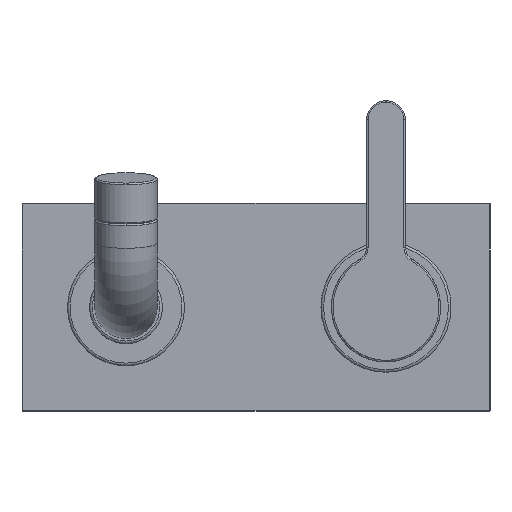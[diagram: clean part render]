
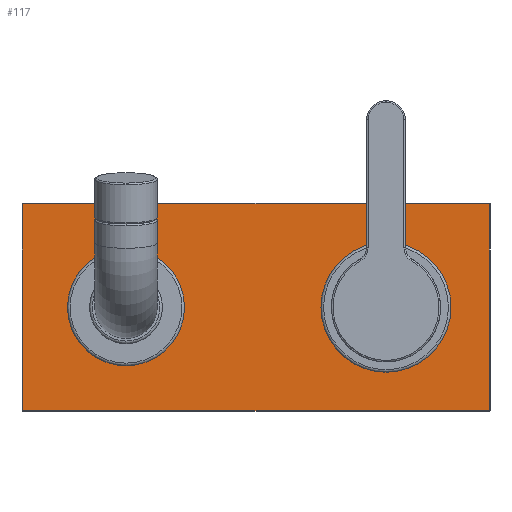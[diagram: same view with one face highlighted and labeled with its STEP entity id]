
A CAD part, left-side view. The second image highlights one B-rep face of the part: STEP entity #117.
In plain terms, the highlighted planar face has unit normal (-1, 0, 0).
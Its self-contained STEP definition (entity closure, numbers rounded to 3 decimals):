
#117=ADVANCED_FACE('',(#835,#837,#839),#841,.F.);
#835=FACE_BOUND('',#836,.T.);
#836=EDGE_LOOP('',(#1742,#1743,#1744,#1745));
#837=FACE_BOUND('',#838,.T.);
#838=EDGE_LOOP('',(#1746));
#839=FACE_BOUND('',#840,.T.);
#840=EDGE_LOOP('',(#1747));
#841=PLANE('',#842);
#842=AXIS2_PLACEMENT_3D('',#843,#844,#845);
#843=CARTESIAN_POINT('',(0.,0.,0.));
#844=DIRECTION('',(1.,0.,0.));
#845=DIRECTION('',(0.,1.,0.));
#1742=ORIENTED_EDGE('',*,*,#2024,.F.);
#1743=ORIENTED_EDGE('',*,*,#2025,.F.);
#1744=ORIENTED_EDGE('',*,*,#2026,.F.);
#1745=ORIENTED_EDGE('',*,*,#2027,.F.);
#1746=ORIENTED_EDGE('',*,*,#2023,.F.);
#1747=ORIENTED_EDGE('',*,*,#2028,.F.);
#2023=EDGE_CURVE('',#2172,#2172,#2173,.T.);
#2024=EDGE_CURVE('',#2174,#2175,#2176,.T.);
#2025=EDGE_CURVE('',#2177,#2174,#2178,.T.);
#2026=EDGE_CURVE('',#2179,#2177,#2180,.T.);
#2027=EDGE_CURVE('',#2175,#2179,#2181,.T.);
#2028=EDGE_CURVE('',#2182,#2182,#2183,.T.);
#2172=VERTEX_POINT('',#2422);
#2173=CIRCLE('',#2423,25.);
#2174=VERTEX_POINT('',#2427);
#2175=VERTEX_POINT('',#2428);
#2176=LINE('',#2429,#2430);
#2177=VERTEX_POINT('',#2432);
#2178=LINE('',#2433,#2434);
#2179=VERTEX_POINT('',#2436);
#2180=LINE('',#2437,#2438);
#2181=LINE('',#2440,#2441);
#2182=VERTEX_POINT('',#2443);
#2183=CIRCLE('',#2444,22.5);
#2422=CARTESIAN_POINT('',(0.,-75.,0.));
#2423=AXIS2_PLACEMENT_3D('',#2424,#2425,#2426);
#2424=CARTESIAN_POINT('',(0.,-100.,0.));
#2425=DIRECTION('',(-1.,-0.,0.));
#2426=DIRECTION('',(0.,1.,0.));
#2427=CARTESIAN_POINT('',(0.,-139.8,-39.8));
#2428=CARTESIAN_POINT('',(0.,39.8,-39.8));
#2429=CARTESIAN_POINT('',(0.,-139.8,-39.8));
#2430=VECTOR('',#2431,1.);
#2431=DIRECTION('',(0.,1.,0.));
#2432=CARTESIAN_POINT('',(0.,-139.8,39.8));
#2433=CARTESIAN_POINT('',(0.,-139.8,39.8));
#2434=VECTOR('',#2435,1.);
#2435=DIRECTION('',(0.,0.,-1.));
#2436=CARTESIAN_POINT('',(0.,39.8,39.8));
#2437=CARTESIAN_POINT('',(0.,39.8,39.8));
#2438=VECTOR('',#2439,1.);
#2439=DIRECTION('',(0.,-1.,0.));
#2440=CARTESIAN_POINT('',(0.,39.8,-39.8));
#2441=VECTOR('',#2442,1.);
#2442=DIRECTION('',(0.,0.,1.));
#2443=CARTESIAN_POINT('',(0.,22.5,0.));
#2444=AXIS2_PLACEMENT_3D('',#2445,#2446,#2447);
#2445=CARTESIAN_POINT('',(0.,0.,0.));
#2446=DIRECTION('',(-1.,-0.,0.));
#2447=DIRECTION('',(0.,1.,0.));
